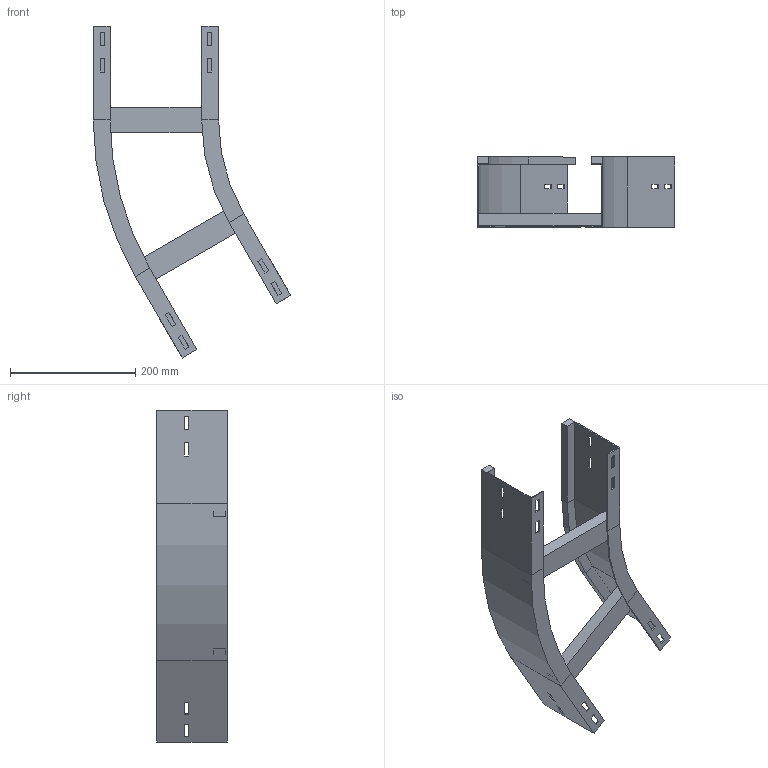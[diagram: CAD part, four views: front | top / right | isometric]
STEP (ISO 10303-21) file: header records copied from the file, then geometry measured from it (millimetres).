
FILE_DESCRIPTION (( 'STEP AP214' ), '1' );
FILE_NAME ('A2_12B3J200.step', '2025-02-21T15:08:49', ( '' ), ( '' ), 'SwSTEP 2.0', 'SolidWorks 2023', '' );
FILE_SCHEMA (( 'AUTOMOTIVE_DESIGN' ));
Length unit declared in the file: millimetre
Products named in the file (4): A2_12B3J200; TRAVERSINO_200; A2_LONGH.INTERNO 30°_H112.5_R300; A2_LONGH.ESTERNO 30°_H112.5_R300+200
Assembly tree (4 placements, depth 2):
  A2_12B3J200
    A2_LONGH.INTERNO 30°_H112.5_R300
    A2_LONGH.ESTERNO 30°_H112.5_R300+200
    TRAVERSINO_200  x2
Bounding box: 315.19 x 112.5 x 529.9 mm (x, y, z)
Volume: 788408.5 mm3; surface area: 366339.4 mm2
Topology: 4 solids, 4 shells, 128 faces, 328 edges, 208 vertices
Faces by surface type: plane 120, cylinder 8
Entity records: 3813 total; most frequent: CARTESIAN_POINT 645, ORIENTED_EDGE 632, DIRECTION 590, EDGE_CURVE 316, LINE 300, VECTOR 300, VERTEX_POINT 200, EDGE_LOOP 154
